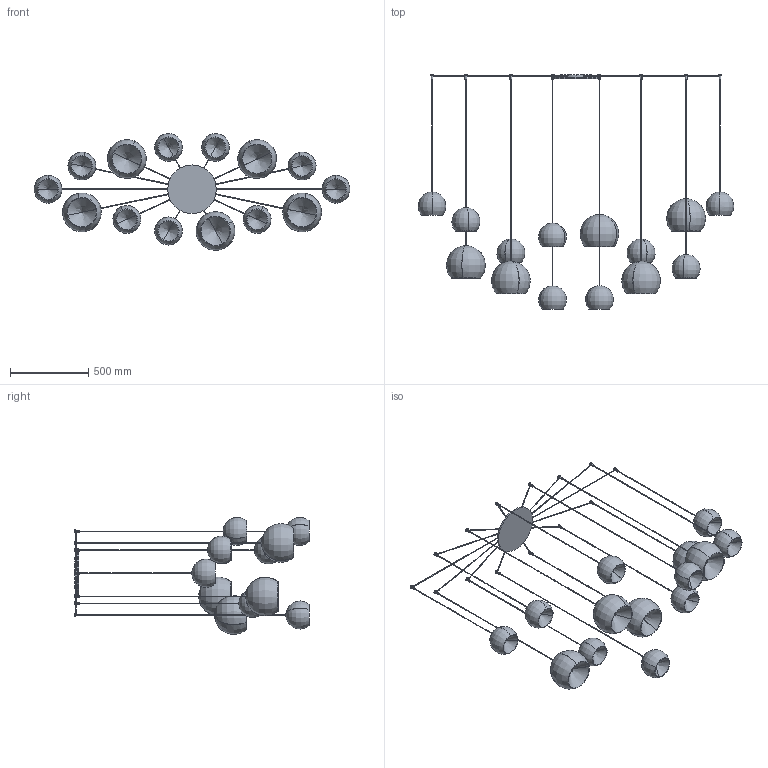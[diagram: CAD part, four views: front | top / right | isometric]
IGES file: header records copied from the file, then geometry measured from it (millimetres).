
Start section: SolidWorks IGES file using analytic representation for surfaces
Global section: file name: Y:\eforma\TECNICO\SOLIDWORKS\E-FORMA\09-LAMPADE\CHERRY MIX\08 modelli 3D web\CRM14-00-CHERRY MIX_14 SOSPENSIONE.IGS; native system: SolidWorks 2022; preprocessor: SolidWorks 2022; author: eforma.tech; date: 240801.144231; units: millimetre
Bounding box: 2016.72 x 1500 x 748.7 mm (x, y, z)
Volume: 5002141.1 mm3; surface area: 4362153.3 mm2
Topology: 70 solids, 70 shells, 525 faces, 1118 edges, 706 vertices
Faces by surface type: revolution 368, plane 157
